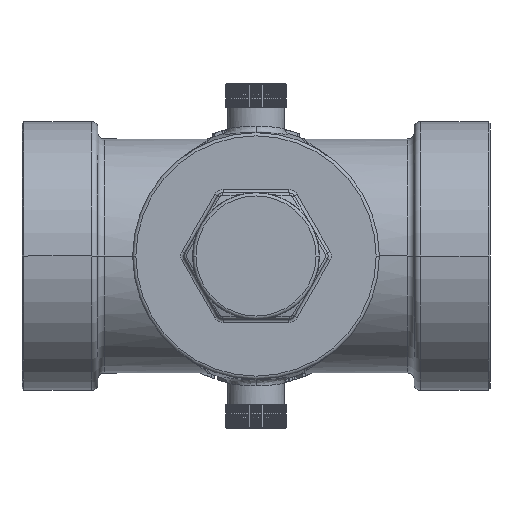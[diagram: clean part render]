
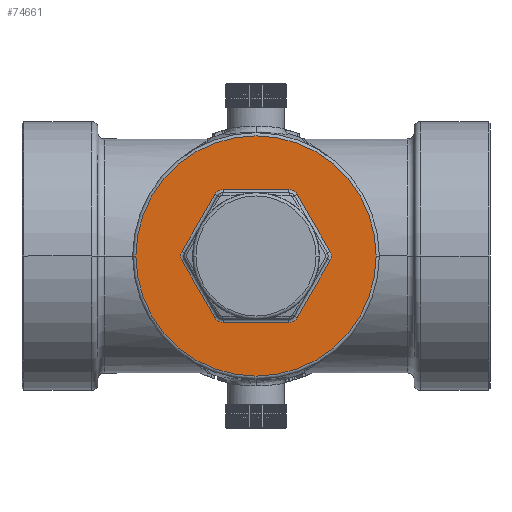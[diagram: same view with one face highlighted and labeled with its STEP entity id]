
A CAD part, front view. The second image highlights one B-rep face of the part: STEP entity #74661.
In plain terms, the highlighted planar face has unit normal (0, -1, 0).
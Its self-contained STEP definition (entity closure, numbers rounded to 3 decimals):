
#73303=CARTESIAN_POINT('',(0.,25.,0.));
#73304=DIRECTION('',(0.,-1.,0.));
#73305=DIRECTION('',(-1.,0.,0.));
#73306=AXIS2_PLACEMENT_3D('',#73303,#73304,#73305);
#73308=CARTESIAN_POINT('',(0.,25.,0.));
#73309=DIRECTION('',(0.,-1.,0.));
#73310=DIRECTION('',(1.,0.,0.));
#73311=AXIS2_PLACEMENT_3D('',#73308,#73309,#73310);
#73313=DIRECTION('',(-1.,0.,0.));
#73314=VECTOR('',#73313,20.785);
#73315=CARTESIAN_POINT('',(10.392,25.,-21.));
#73316=LINE('',#73315,#73314);
#73317=CARTESIAN_POINT('',(10.392,25.,-18.));
#73318=DIRECTION('',(0.,1.,0.));
#73319=DIRECTION('',(0.866,0.,-0.5));
#73320=AXIS2_PLACEMENT_3D('',#73317,#73318,#73319);
#73322=DIRECTION('',(-0.5,0.,-0.866));
#73323=VECTOR('',#73322,20.785);
#73324=CARTESIAN_POINT('',(23.383,25.,-1.5));
#73325=LINE('',#73324,#73323);
#73326=CARTESIAN_POINT('',(20.785,25.,0.));
#73327=DIRECTION('',(0.,1.,0.));
#73328=DIRECTION('',(0.866,0.,0.5));
#73329=AXIS2_PLACEMENT_3D('',#73326,#73327,#73328);
#73331=DIRECTION('',(0.5,0.,-0.866));
#73332=VECTOR('',#73331,20.785);
#73333=CARTESIAN_POINT('',(12.99,25.,19.5));
#73334=LINE('',#73333,#73332);
#73335=CARTESIAN_POINT('',(10.392,25.,18.));
#73336=DIRECTION('',(0.,1.,0.));
#73337=DIRECTION('',(0.,0.,1.));
#73338=AXIS2_PLACEMENT_3D('',#73335,#73336,#73337);
#73340=DIRECTION('',(1.,0.,0.));
#73341=VECTOR('',#73340,20.785);
#73342=CARTESIAN_POINT('',(-10.392,25.,21.));
#73343=LINE('',#73342,#73341);
#73344=CARTESIAN_POINT('',(-10.392,25.,18.));
#73345=DIRECTION('',(0.,1.,0.));
#73346=DIRECTION('',(-0.866,0.,0.5));
#73347=AXIS2_PLACEMENT_3D('',#73344,#73345,#73346);
#73349=DIRECTION('',(0.5,0.,0.866));
#73350=VECTOR('',#73349,20.785);
#73351=CARTESIAN_POINT('',(-23.383,25.,1.5));
#73352=LINE('',#73351,#73350);
#73353=CARTESIAN_POINT('',(-20.785,25.,0.));
#73354=DIRECTION('',(0.,1.,0.));
#73355=DIRECTION('',(-0.866,0.,-0.5));
#73356=AXIS2_PLACEMENT_3D('',#73353,#73354,#73355);
#73358=DIRECTION('',(-0.5,0.,0.866));
#73359=VECTOR('',#73358,20.785);
#73360=CARTESIAN_POINT('',(-12.99,25.,-19.5));
#73361=LINE('',#73360,#73359);
#73362=CARTESIAN_POINT('',(-10.392,25.,-18.));
#73363=DIRECTION('',(0.,1.,0.));
#73364=DIRECTION('',(0.,0.,-1.));
#73365=AXIS2_PLACEMENT_3D('',#73362,#73363,#73364);
#74218=CARTESIAN_POINT('',(-38.,25.,0.));
#74219=CARTESIAN_POINT('',(38.,25.,0.));
#74220=VERTEX_POINT('',#74218);
#74221=VERTEX_POINT('',#74219);
#74304=CARTESIAN_POINT('',(10.392,25.,-21.));
#74305=CARTESIAN_POINT('',(-10.392,25.,-21.));
#74306=VERTEX_POINT('',#74304);
#74307=VERTEX_POINT('',#74305);
#74310=CARTESIAN_POINT('',(-12.99,25.,-19.5));
#74311=VERTEX_POINT('',#74310);
#74314=CARTESIAN_POINT('',(-23.383,25.,-1.5));
#74315=VERTEX_POINT('',#74314);
#74318=CARTESIAN_POINT('',(-23.383,25.,1.5));
#74319=VERTEX_POINT('',#74318);
#74322=CARTESIAN_POINT('',(-12.99,25.,19.5));
#74323=VERTEX_POINT('',#74322);
#74326=CARTESIAN_POINT('',(-10.392,25.,21.));
#74327=VERTEX_POINT('',#74326);
#74330=CARTESIAN_POINT('',(10.392,25.,21.));
#74331=VERTEX_POINT('',#74330);
#74334=CARTESIAN_POINT('',(12.99,25.,19.5));
#74335=VERTEX_POINT('',#74334);
#74338=CARTESIAN_POINT('',(23.383,25.,1.5));
#74339=VERTEX_POINT('',#74338);
#74342=CARTESIAN_POINT('',(23.383,25.,-1.5));
#74343=VERTEX_POINT('',#74342);
#74346=CARTESIAN_POINT('',(12.99,25.,-19.5));
#74347=VERTEX_POINT('',#74346);
#74625=CARTESIAN_POINT('',(0.,25.,0.));
#74626=DIRECTION('',(0.,1.,0.));
#74627=DIRECTION('',(1.,0.,0.));
#74628=AXIS2_PLACEMENT_3D('',#74625,#74626,#74627);
#74629=PLANE('',#74628);
#74630=ORIENTED_EDGE('',*,*,#74615,.F.);
#74632=ORIENTED_EDGE('',*,*,#74631,.F.);
#74633=EDGE_LOOP('',(#74630,#74632));
#74634=FACE_OUTER_BOUND('',#74633,.F.);
#74636=ORIENTED_EDGE('',*,*,#74635,.F.);
#74638=ORIENTED_EDGE('',*,*,#74637,.F.);
#74640=ORIENTED_EDGE('',*,*,#74639,.F.);
#74642=ORIENTED_EDGE('',*,*,#74641,.F.);
#74644=ORIENTED_EDGE('',*,*,#74643,.F.);
#74646=ORIENTED_EDGE('',*,*,#74645,.F.);
#74648=ORIENTED_EDGE('',*,*,#74647,.F.);
#74650=ORIENTED_EDGE('',*,*,#74649,.F.);
#74652=ORIENTED_EDGE('',*,*,#74651,.F.);
#74654=ORIENTED_EDGE('',*,*,#74653,.F.);
#74656=ORIENTED_EDGE('',*,*,#74655,.F.);
#74658=ORIENTED_EDGE('',*,*,#74657,.F.);
#74659=EDGE_LOOP('',(#74636,#74638,#74640,#74642,#74644,#74646,#74648,#74650,
#74652,#74654,#74656,#74658));
#74660=FACE_BOUND('',#74659,.F.);
#74661=ADVANCED_FACE('',(#74634,#74660),#74629,.F.);
#73307=CIRCLE('',#73306,38.);
#73312=CIRCLE('',#73311,38.);
#73321=CIRCLE('',#73320,3.);
#73330=CIRCLE('',#73329,3.);
#73339=CIRCLE('',#73338,3.);
#73348=CIRCLE('',#73347,3.);
#73357=CIRCLE('',#73356,3.);
#73366=CIRCLE('',#73365,3.);
#74615=EDGE_CURVE('',#74220,#74221,#73307,.T.);
#74631=EDGE_CURVE('',#74221,#74220,#73312,.T.);
#74635=EDGE_CURVE('',#74306,#74307,#73316,.T.);
#74637=EDGE_CURVE('',#74347,#74306,#73321,.T.);
#74639=EDGE_CURVE('',#74343,#74347,#73325,.T.);
#74641=EDGE_CURVE('',#74339,#74343,#73330,.T.);
#74643=EDGE_CURVE('',#74335,#74339,#73334,.T.);
#74645=EDGE_CURVE('',#74331,#74335,#73339,.T.);
#74647=EDGE_CURVE('',#74327,#74331,#73343,.T.);
#74649=EDGE_CURVE('',#74323,#74327,#73348,.T.);
#74651=EDGE_CURVE('',#74319,#74323,#73352,.T.);
#74653=EDGE_CURVE('',#74315,#74319,#73357,.T.);
#74655=EDGE_CURVE('',#74311,#74315,#73361,.T.);
#74657=EDGE_CURVE('',#74307,#74311,#73366,.T.);
